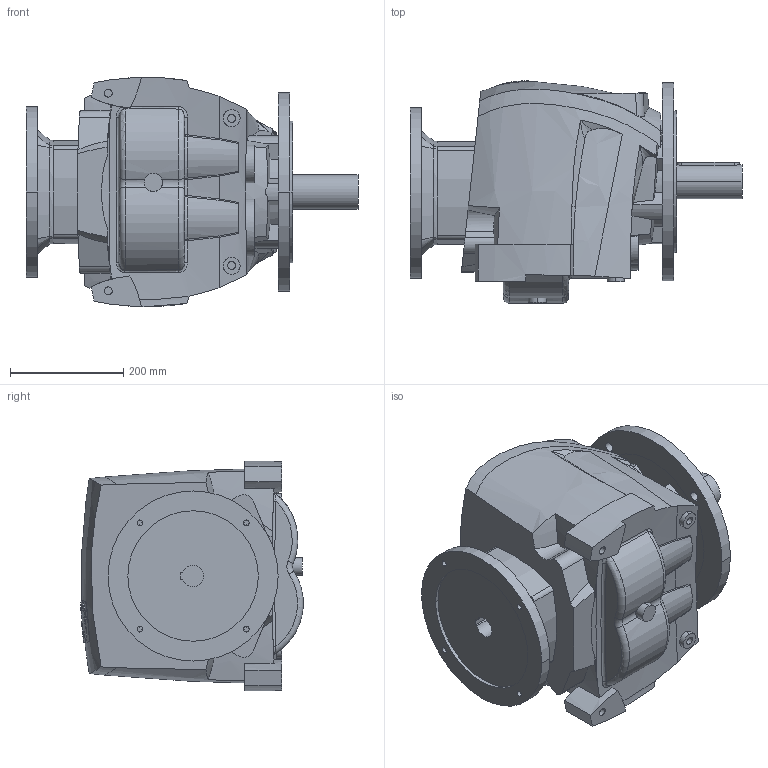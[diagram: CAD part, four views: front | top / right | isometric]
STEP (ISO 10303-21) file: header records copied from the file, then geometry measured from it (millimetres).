
FILE_DESCRIPTION((''),'2;1');
FILE_NAME('R60_350_PAM132','2013-12-23T',('Luca'),(''),'PRO/ENGINEER BY PARAMETRIC TECHNOLOGY CORPORATION, 2008230','PRO/ENGINEER BY PARAMETRIC TECHNOLOGY CORPORATION, 2008230','');
FILE_SCHEMA(('CONFIG_CONTROL_DESIGN'));
Length unit declared in the file: millimetre
Products named in the file (1): R60_350_PAM132
Bounding box: 585.5 x 392.1 x 404.24 mm (x, y, z)
Volume: 41673440.2 mm3; surface area: 1050603.8 mm2
Topology: 1 solids, 7 shells, 469 faces, 1226 edges, 805 vertices
Faces by surface type: plane 178, cylinder 159, bspline 100, torus 14, cone 13, sphere 4, extrusion 1
Entity records: 20011 total; most frequent: CARTESIAN_POINT 9330, ORIENTED_EDGE 2448, DIRECTION 1820, EDGE_CURVE 1224, VERTEX_POINT 805, AXIS2_PLACEMENT_3D 672, EDGE_LOOP 521, VECTOR 476
